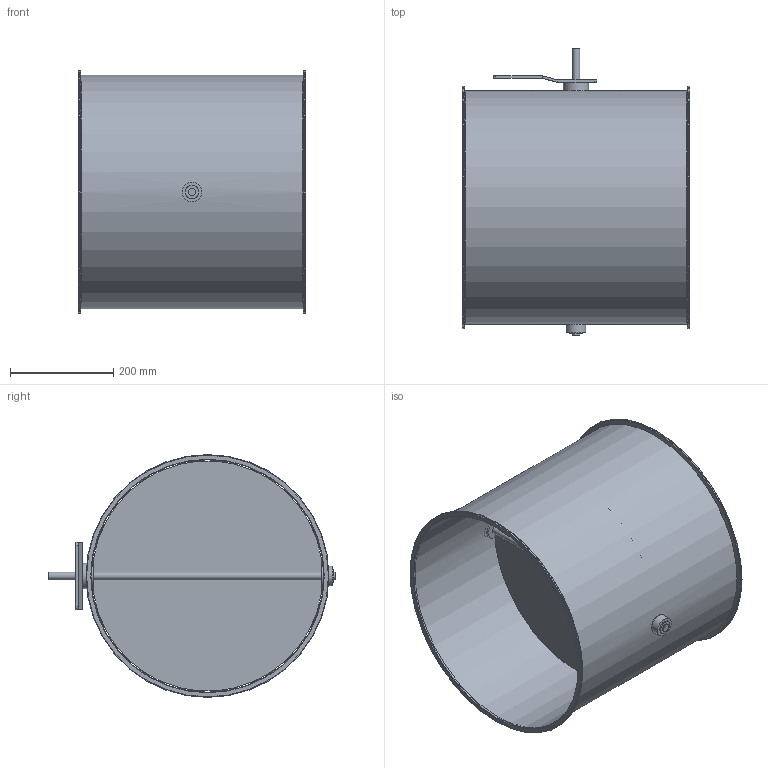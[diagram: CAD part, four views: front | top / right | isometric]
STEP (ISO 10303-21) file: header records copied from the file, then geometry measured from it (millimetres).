
FILE_DESCRIPTION(/* description */ (''),/* implementation_level */ '2;1');
FILE_NAME(/* name */ 'EA109-80B__450_L440_Belimo_Typ_GM.stp',/* time_stamp */ '2017-12-07T10:46:12+01:00',/* author */ (''),/* organization */ (''),/* preprocessor_version */ 'ST-DEVELOPER v11',/* originating_system */ 'SIEMENS UGS NX 6.0',/* authorisation */ '');
FILE_SCHEMA (('CONFIG_CONTROL_DESIGN'));
Length unit declared in the file: millimetre
Products named in the file (1): gars5544kx89
Bounding box: 440 x 554 x 470 mm (x, y, z)
Volume: 1176223.1 mm3; surface area: 1709511 mm2
Topology: 8 solids, 8 shells, 78 faces, 164 edges, 104 vertices
Faces by surface type: plane 36, cylinder 34, torus 6, cone 2
Full cylindrical faces by diameter (mm): 6.1 x6, 15 x3, 25 x3, 25.85 x2, 26 x2, 38 x3, 49 x1, 450 x1, 452 x1, 470 x2
Entity records: 2028 total; most frequent: CARTESIAN_POINT 363, DIRECTION 346, ORIENTED_EDGE 244, AXIS2_PLACEMENT_3D 149, EDGE_LOOP 140, EDGE_CURVE 122, FACE_BOUND 110, VERTEX_POINT 94
